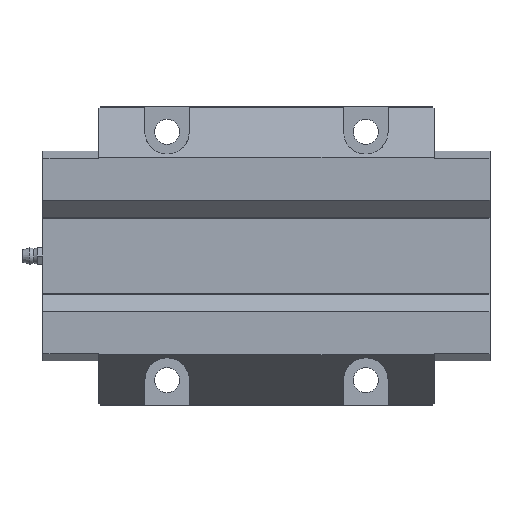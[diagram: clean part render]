
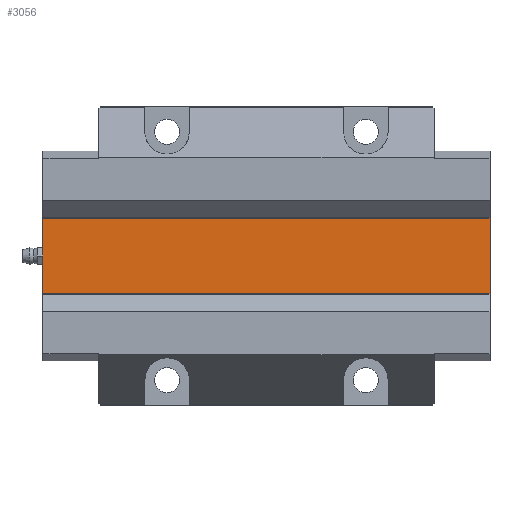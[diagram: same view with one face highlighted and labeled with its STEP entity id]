
A CAD part, front view. The second image highlights one B-rep face of the part: STEP entity #3056.
In plain terms, the highlighted planar face has unit normal (0, -1, 0).
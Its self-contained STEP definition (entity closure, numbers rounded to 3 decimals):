
#809=ORIENTED_EDGE('',*,*,#1214,.F.);
#810=ORIENTED_EDGE('',*,*,#1407,.F.);
#811=ORIENTED_EDGE('',*,*,#1157,.T.);
#812=ORIENTED_EDGE('',*,*,#1408,.T.);
#1157=EDGE_CURVE('',#1573,#1572,#1859,.T.);
#1214=EDGE_CURVE('',#1626,#1627,#1895,.T.);
#1407=EDGE_CURVE('',#1573,#1626,#2057,.T.);
#1408=EDGE_CURVE('',#1572,#1627,#2058,.T.);
#1572=VERTEX_POINT('',#4517);
#1573=VERTEX_POINT('',#4519);
#1626=VERTEX_POINT('',#4629);
#1627=VERTEX_POINT('',#4631);
#1859=LINE('',#4518,#2129);
#1895=LINE('',#4630,#2165);
#2057=LINE('',#5009,#2327);
#2058=LINE('',#5011,#2328);
#2129=VECTOR('',#3594,1000.);
#2165=VECTOR('',#3674,1000.);
#2327=VECTOR('',#4050,1000.);
#2328=VECTOR('',#4053,1000.);
#2461=EDGE_LOOP('',(#809,#810,#811,#812));
#2713=FACE_BOUND('',#2461,.T.);
#2925=PLANE('',#3336);
#3056=ADVANCED_FACE('',(#2713),#2925,.T.);
#3336=AXIS2_PLACEMENT_3D('',#5010,#4051,#4052);
#3594=DIRECTION('',(0.,0.,1.));
#3674=DIRECTION('',(0.,0.,1.));
#4050=DIRECTION('',(-1.,0.,0.));
#4051=DIRECTION('',(0.,-1.,0.));
#4052=DIRECTION('',(0.,0.,-1.));
#4053=DIRECTION('',(-1.,0.,0.));
#4517=CARTESIAN_POINT('',(90.,29.6,21.47));
#4518=CARTESIAN_POINT('',(90.,29.6,-21.47));
#4519=CARTESIAN_POINT('',(90.,29.6,-21.47));
#4629=CARTESIAN_POINT('',(-90.,29.6,-21.47));
#4630=CARTESIAN_POINT('',(-90.,29.6,-21.47));
#4631=CARTESIAN_POINT('',(-90.,29.6,21.47));
#5009=CARTESIAN_POINT('',(90.,29.6,-21.47));
#5010=CARTESIAN_POINT('',(90.,29.6,-21.47));
#5011=CARTESIAN_POINT('',(90.,29.6,21.47));
